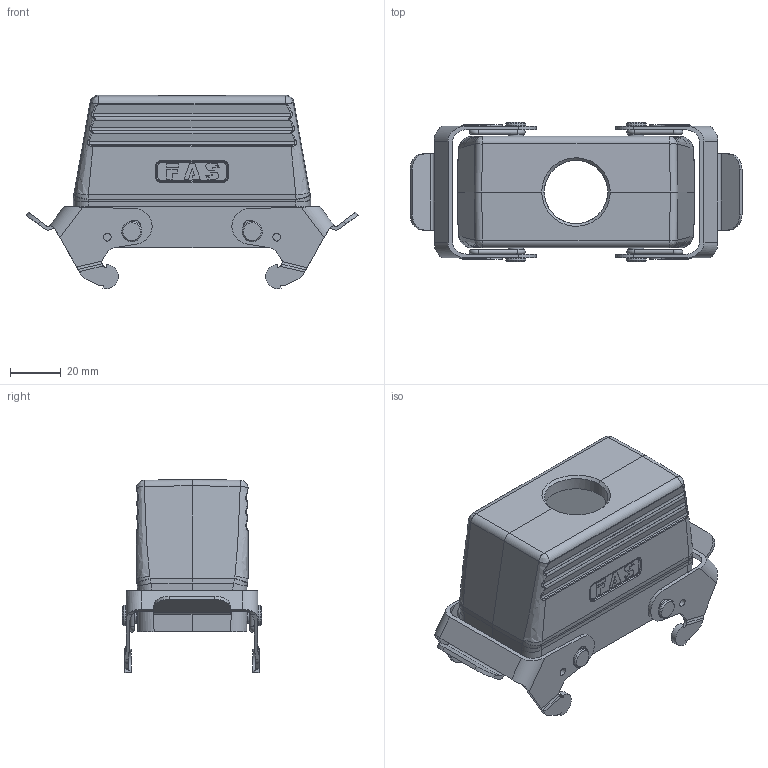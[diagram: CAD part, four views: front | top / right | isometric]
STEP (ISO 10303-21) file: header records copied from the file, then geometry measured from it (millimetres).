
FILE_DESCRIPTION (( 'STEP AP203' ), '1' );
FILE_NAME ('H16B-TBF-M25.STEP', '2023-06-09T01:28:03', ( '' ), ( '' ), 'SwSTEP 2.0', 'SolidWorks 2016', '' );
FILE_SCHEMA (( 'CONFIG_CONTROL_DESIGN' ));
Length unit declared in the file: millimetre
Products named in the file (1): H16B-TBF-M25
Bounding box: 130.9 x 55 x 76.17 mm (x, y, z)
Volume: 80405.2 mm3; surface area: 46338 mm2
Topology: 1 solids, 1 shells, 723 faces, 1883 edges, 1194 vertices
Faces by surface type: plane 280, cylinder 245, bspline 130, torus 36, cone 28, sphere 4
Full cylindrical faces by diameter (mm): 1.8 x4, 2.3 x4, 3 x4, 3.3 x4, 4 x8, 6 x4, 8 x4, 25 x1
Entity records: 31173 total; most frequent: CARTESIAN_POINT 15286, ORIENTED_EDGE 3538, DIRECTION 2849, EDGE_CURVE 1769, VERTEX_POINT 1149, AXIS2_PLACEMENT_3D 1021, EDGE_LOOP 846, VECTOR 807
